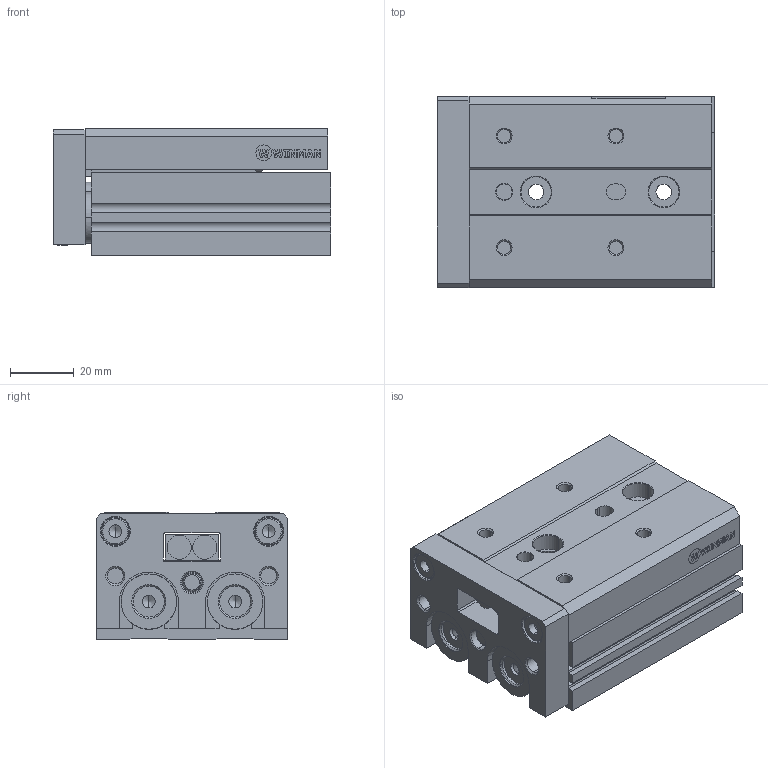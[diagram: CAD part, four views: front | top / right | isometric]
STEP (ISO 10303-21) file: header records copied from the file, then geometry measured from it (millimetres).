
FILE_DESCRIPTION (( 'STEP AP214' ), '1' );
FILE_NAME ('WLS-016-0020S (MDMY).STEP', '2017-02-11T06:06:16', ( 'Hidtek' ), ( '' ), 'SwSTEP 2.0', 'SolidWorks 2016', '' );
FILE_SCHEMA (( 'AUTOMOTIVE_DESIGN' ));
Length unit declared in the file: millimetre
Products named in the file (3): WLS16X20-S(0)-rod; WLS16X20-S(0)-body; WLS-016-0020S (MDMY)
Assembly tree (2 placements, depth 2):
  WLS-016-0020S (MDMY)
    WLS16X20-S(0)-body
    WLS16X20-S(0)-rod
Bounding box: 87 x 60 x 40 mm (x, y, z)
Volume: 166083.4 mm3; surface area: 54160.1 mm2
Topology: 2 solids, 2 shells, 488 faces, 1208 edges, 770 vertices
Faces by surface type: plane 246, cylinder 158, cone 78, bspline 6
Entity records: 15591 total; most frequent: CARTESIAN_POINT 2598, DIRECTION 2565, ORIENTED_EDGE 2384, EDGE_CURVE 1192, AXIS2_PLACEMENT_3D 897, LINE 771, VECTOR 771, VERTEX_POINT 770
